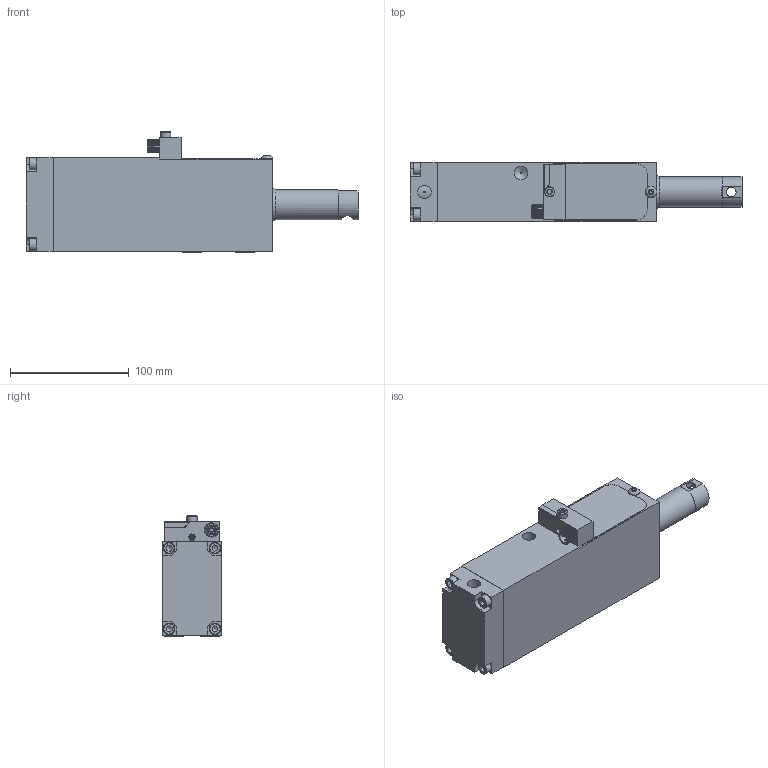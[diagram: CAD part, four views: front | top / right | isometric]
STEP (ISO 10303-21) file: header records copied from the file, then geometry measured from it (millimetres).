
FILE_DESCRIPTION(/* description */ (''),/* implementation_level */ '2;1');
FILE_NAME(/* name */ 'M:\cad\PRODUCT\LSA\LSA - 73\STEP FILES\LSA-73 S\50mm Stroke\LSA-73-S 50mm - Extend.stp',/* time_stamp */ '2018-06-01T11:09:32-04:00',/* author */ ('Tyler'),/* organization */ (''),/* preprocessor_version */ 'ST-DEVELOPER v17',/* originating_system */ 'Autodesk Inventor 2019',/* authorisation */ '');
FILE_SCHEMA (('AUTOMOTIVE_DESIGN { 1 0 10303 214 3 1 1 }'));
Length unit declared in the file: inch
Products named in the file (1): LSA-73-S  25_50 Stroke - Stripped for STEP_50mm Extend
Bounding box: 280 x 50.01 x 101.61 mm (x, y, z)
Volume: 590544.1 mm3; surface area: 139239 mm2
Topology: 2 solids, 2 shells, 484 faces, 1380 edges, 929 vertices
Faces by surface type: plane 223, cylinder 188, cone 60, torus 10, bspline 3
Full cylindrical faces by diameter (mm): 1 x8, 1.321 x2, 2 x2, 3.251 x1, 3.264 x6, 3.961 x25, 5 x26, 5.3 x4, 7.671 x2, 8.019 x1, 8.072 x2, 8.128 x1, 8.3 x1, 8.331 x1, 8.382 x4, 8.5 x1, 9.5 x1, 10 x5, 10.16 x1, 10.5 x1, 11.43 x1, 11.455 x1, 12 x1, 12.7 x2, 14.605 x1, 15.478 x1, 16.007 x1, 17.62 x1, 19.05 x2, 25.391 x1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
Entity records: 21989 total; most frequent: CARTESIAN_POINT 8686, ORIENTED_EDGE 2724, DIRECTION 2630, EDGE_CURVE 1362, AXIS2_PLACEMENT_3D 967, VERTEX_POINT 929, LINE 696, VECTOR 696
